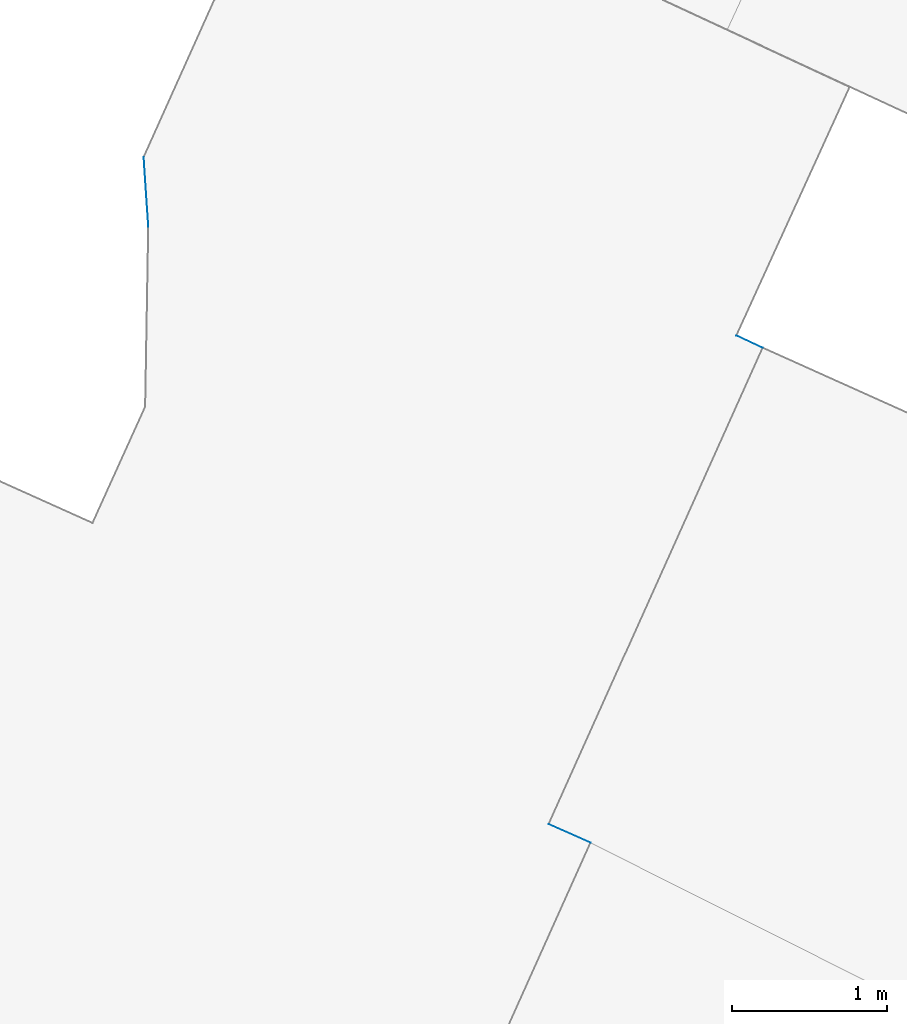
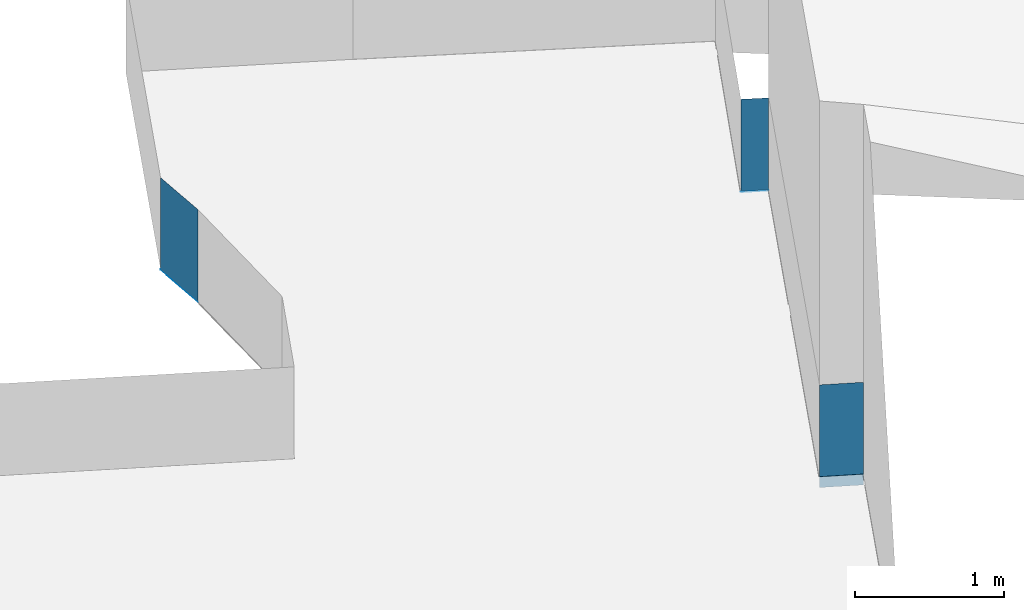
# Not in any storey, part 118 of 136: 8 walls.
"""IFC2X3 building model written with IfcOpenShell, lengths in metres."""

from ifc_helpers import new_model, entity, si_unit, converted_unit, origin, place, context, subcontext, project, spatial, face_set, surface_model, element, save


model = new_model("IFC2X3")

# Units and contexts
model_context = context("Model", 3, precision=1e-05, world=origin())
body_context = subcontext(model_context, "Body", "Model", "MODEL_VIEW")
ifc_project = project(units=[converted_unit("PLANEANGLEUNIT", "DEGREE", entity("IfcRatioMeasure", 0.0174532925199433), si_unit("PLANEANGLEUNIT", "RADIAN"), dimensions=[0, 0, 0, 0, 0, 0, 0]), si_unit("AREAUNIT", "SQUARE_METRE"), si_unit("LENGTHUNIT", "METRE")], contexts=[model_context])

# Site, building
site_placement = place(None, origin())
site = spatial("IfcSite", under=ifc_project, at=site_placement, Name="_site", CompositionType="ELEMENT")
building_1_placement = place(site_placement, origin())
building_1 = spatial("IfcBuilding", under=site, at=building_1_placement, Name="_building", CompositionType="ELEMENT")

# Walls
wall_1_placement = place(building_1_placement, origin())
element("IfcWall", 1, at=wall_1_placement, inside=building_1, Name="Wall", context=body_context, shape_type="SurfaceModel", body=[
    surface_model("IfcFaceBasedSurfaceModel", [(120.05, 102.49, 43.29), (120.22, 102.41, 43.29), (120.22, 102.41, 44.04), (120.05, 102.49, 44.04)], [face_set([[[0, 1, 2, 3]]])]),
])
wall_2_placement = place(building_1_placement, origin())
element("IfcWall", 2, at=wall_2_placement, inside=building_1, Name="Wall", context=body_context, shape_type="SurfaceModel", body=[
    surface_model("IfcFaceBasedSurfaceModel", [(116.26, 103.19, 43.29), (116.23, 103.64, 43.29), (116.23, 103.64, 43.286), (116.26, 103.19, 43.284)], [face_set([[[0, 1, 2, 3]]])]),
])
wall_3_placement = place(building_1_placement, origin())
element("IfcWall", 3, at=wall_3_placement, inside=building_1, Name="Wall", context=body_context, shape_type="SurfaceModel", body=[
    surface_model("IfcFaceBasedSurfaceModel", [(120.05, 102.49, 43.29), (120.22, 102.41, 43.29), (120.22, 102.41, 44.04), (120.05, 102.49, 44.04)], [face_set([[[0, 1, 2, 3]]])]),
])
wall_4_placement = place(building_1_placement, origin())
element("IfcWall", 4, at=wall_4_placement, inside=building_1, Name="Wall", context=body_context, shape_type="SurfaceModel", body=[
    surface_model("IfcFaceBasedSurfaceModel", [(120.05, 102.49, 43.29), (120.22, 102.41, 43.29), (120.22, 102.41, 43.284), (120.05, 102.49, 43.281)], [face_set([[[0, 1, 2, 3]]])]),
])
wall_5_placement = place(building_1_placement, origin())
element("IfcWall", 5, at=wall_5_placement, inside=building_1, Name="Wall", context=body_context, shape_type="SurfaceModel", body=[
    surface_model("IfcFaceBasedSurfaceModel", [(116.26, 103.19, 43.29), (116.23, 103.64, 43.29), (116.23, 103.64, 44.04), (116.26, 103.19, 44.04)], [face_set([[[0, 1, 2, 3]]])]),
])

# Building
building_2_placement = place(site_placement, origin())
building_2 = spatial("IfcBuilding", under=site, at=building_2_placement, Name="_building", CompositionType="ELEMENT")

# Walls
wall_6_placement = place(building_2_placement, origin())
element("IfcWall", 6, at=wall_6_placement, inside=building_2, Name="Wall", context=body_context, shape_type="SurfaceModel", body=[
    surface_model("IfcFaceBasedSurfaceModel", [(118.84, 99.34, 43.29), (119.11, 99.22, 43.29), (119.11, 99.22, 44.04), (118.84, 99.34, 44.04)], [face_set([[[0, 1, 2, 3]]])]),
])
wall_7_placement = place(building_2_placement, origin())
element("IfcWall", 7, at=wall_7_placement, inside=building_2, Name="Wall", context=body_context, shape_type="SurfaceModel", body=[
    surface_model("IfcFaceBasedSurfaceModel", [(118.84, 99.34, 43.29), (119.11, 99.22, 43.29), (119.11, 99.22, 43.201), (118.84, 99.34, 43.201)], [face_set([[[0, 1, 2, 3]]])]),
])
wall_8_placement = place(building_2_placement, origin())
element("IfcWall", 8, at=wall_8_placement, inside=building_2, Name="Wall", context=body_context, shape_type="SurfaceModel", body=[
    surface_model("IfcFaceBasedSurfaceModel", [(118.84, 99.34, 43.29), (119.11, 99.22, 43.29), (119.11, 99.22, 44.04), (118.84, 99.34, 44.04)], [face_set([[[0, 1, 2, 3]]])]),
])

save(model, "model.ifc")
